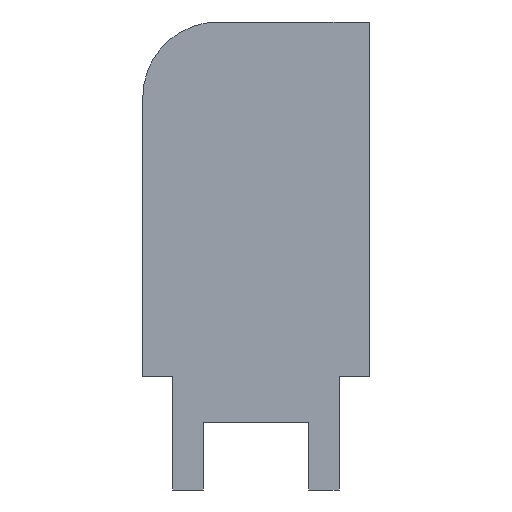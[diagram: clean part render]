
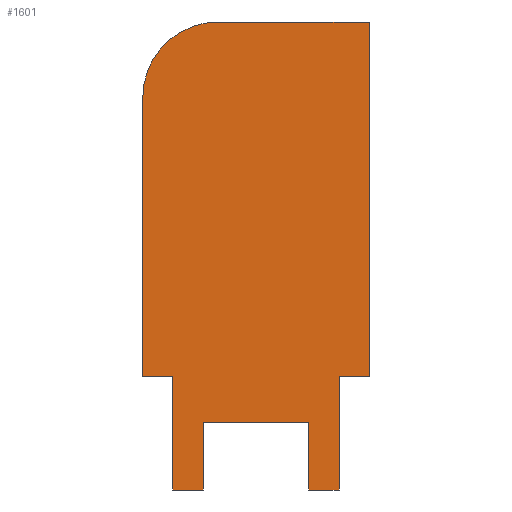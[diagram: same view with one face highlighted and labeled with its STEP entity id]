
A CAD part, left-side view. The second image highlights one B-rep face of the part: STEP entity #1601.
In plain terms, the highlighted planar face has unit normal (-1, 0, 0).
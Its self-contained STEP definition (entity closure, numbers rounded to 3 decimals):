
#51=PLANE('',#1710);
#148=FACE_OUTER_BOUND('',#239,.T.);
#239=EDGE_LOOP('',(#1445,#1446,#1447,#1448,#1449,#1450,#1451,#1452,#1453,
#1454,#1455,#1456,#1457));
#262=CIRCLE('',#1682,5.);
#416=LINE('',#6028,#526);
#419=LINE('',#6034,#529);
#422=LINE('',#6040,#532);
#425=LINE('',#6046,#535);
#428=LINE('',#6052,#538);
#431=LINE('',#6058,#541);
#434=LINE('',#6064,#544);
#437=LINE('',#6070,#547);
#440=LINE('',#6076,#550);
#449=LINE('',#6092,#559);
#482=LINE('',#6162,#592);
#483=LINE('',#6164,#593);
#526=VECTOR('',#1892,10.);
#529=VECTOR('',#1897,10.);
#532=VECTOR('',#1902,10.);
#535=VECTOR('',#1907,10.);
#538=VECTOR('',#1912,10.);
#541=VECTOR('',#1917,10.);
#544=VECTOR('',#1922,10.);
#547=VECTOR('',#1927,10.);
#550=VECTOR('',#1932,10.);
#559=VECTOR('',#1945,10.);
#592=VECTOR('',#2008,10.);
#593=VECTOR('',#2011,10.);
#706=VERTEX_POINT('',#6018);
#707=VERTEX_POINT('',#6019);
#710=VERTEX_POINT('',#6027);
#712=VERTEX_POINT('',#6033);
#714=VERTEX_POINT('',#6039);
#716=VERTEX_POINT('',#6045);
#718=VERTEX_POINT('',#6051);
#720=VERTEX_POINT('',#6057);
#722=VERTEX_POINT('',#6063);
#724=VERTEX_POINT('',#6069);
#726=VERTEX_POINT('',#6075);
#731=VERTEX_POINT('',#6090);
#753=VERTEX_POINT('',#6160);
#920=EDGE_CURVE('',#706,#707,#262,.T.);
#924=EDGE_CURVE('',#710,#706,#416,.T.);
#927=EDGE_CURVE('',#712,#710,#419,.T.);
#930=EDGE_CURVE('',#714,#712,#422,.T.);
#933=EDGE_CURVE('',#716,#714,#425,.T.);
#936=EDGE_CURVE('',#718,#716,#428,.T.);
#939=EDGE_CURVE('',#720,#718,#431,.T.);
#942=EDGE_CURVE('',#722,#720,#434,.T.);
#945=EDGE_CURVE('',#724,#722,#437,.T.);
#948=EDGE_CURVE('',#726,#724,#440,.T.);
#957=EDGE_CURVE('',#731,#726,#449,.T.);
#992=EDGE_CURVE('',#753,#707,#482,.T.);
#993=EDGE_CURVE('',#731,#753,#483,.T.);
#1445=ORIENTED_EDGE('',*,*,#993,.T.);
#1446=ORIENTED_EDGE('',*,*,#992,.T.);
#1447=ORIENTED_EDGE('',*,*,#920,.F.);
#1448=ORIENTED_EDGE('',*,*,#924,.F.);
#1449=ORIENTED_EDGE('',*,*,#927,.F.);
#1450=ORIENTED_EDGE('',*,*,#930,.F.);
#1451=ORIENTED_EDGE('',*,*,#933,.F.);
#1452=ORIENTED_EDGE('',*,*,#936,.F.);
#1453=ORIENTED_EDGE('',*,*,#939,.F.);
#1454=ORIENTED_EDGE('',*,*,#942,.F.);
#1455=ORIENTED_EDGE('',*,*,#945,.F.);
#1456=ORIENTED_EDGE('',*,*,#948,.F.);
#1457=ORIENTED_EDGE('',*,*,#957,.F.);
#1601=ADVANCED_FACE('',(#148),#51,.T.);
#1682=AXIS2_PLACEMENT_3D('',#6020,#1884,#1885);
#1710=AXIS2_PLACEMENT_3D('',#6163,#2009,#2010);
#1884=DIRECTION('center_axis',(1.,0.,0.));
#1885=DIRECTION('ref_axis',(0.,1.,0.));
#1892=DIRECTION('',(0.,0.,1.));
#1897=DIRECTION('',(0.,1.,0.));
#1902=DIRECTION('',(0.,0.,1.));
#1907=DIRECTION('',(0.,1.,0.));
#1912=DIRECTION('',(0.,0.,-1.));
#1917=DIRECTION('',(0.,1.,0.));
#1922=DIRECTION('',(0.,0.,1.));
#1927=DIRECTION('',(0.,1.,0.));
#1932=DIRECTION('',(0.,0.,-1.));
#1945=DIRECTION('',(0.,1.,0.));
#2008=DIRECTION('',(0.,1.,0.));
#2009=DIRECTION('center_axis',(-1.,0.,0.));
#2010=DIRECTION('ref_axis',(0.,0.,1.));
#2011=DIRECTION('',(0.,0.,1.));
#6018=CARTESIAN_POINT('',(-25.8,15.,18.5));
#6019=CARTESIAN_POINT('',(-25.8,10.,23.5));
#6020=CARTESIAN_POINT('Origin',(-25.8,10.,18.5));
#6027=CARTESIAN_POINT('',(-25.8,15.,0.));
#6028=CARTESIAN_POINT('',(-25.8,15.,0.));
#6033=CARTESIAN_POINT('',(-25.8,13.,0.));
#6034=CARTESIAN_POINT('',(-25.8,0.,0.));
#6039=CARTESIAN_POINT('',(-25.8,13.,-7.5));
#6040=CARTESIAN_POINT('',(-25.8,13.,-7.5));
#6045=CARTESIAN_POINT('',(-25.8,11.,-7.5));
#6046=CARTESIAN_POINT('',(-25.8,11.,-7.5));
#6051=CARTESIAN_POINT('',(-25.8,11.,-3.));
#6052=CARTESIAN_POINT('',(-25.8,11.,-3.));
#6057=CARTESIAN_POINT('',(-25.8,4.,-3.));
#6058=CARTESIAN_POINT('',(-25.8,4.,-3.));
#6063=CARTESIAN_POINT('',(-25.8,4.,-7.5));
#6064=CARTESIAN_POINT('',(-25.8,4.,-7.5));
#6069=CARTESIAN_POINT('',(-25.8,2.,-7.5));
#6070=CARTESIAN_POINT('',(-25.8,2.,-7.5));
#6075=CARTESIAN_POINT('',(-25.8,2.,0.));
#6076=CARTESIAN_POINT('',(-25.8,2.,0.));
#6090=CARTESIAN_POINT('',(-25.8,0.,0.));
#6092=CARTESIAN_POINT('',(-25.8,0.,0.));
#6160=CARTESIAN_POINT('',(-25.8,0.,23.5));
#6162=CARTESIAN_POINT('',(-25.8,0.,23.5));
#6163=CARTESIAN_POINT('Origin',(-25.8,0.,0.));
#6164=CARTESIAN_POINT('',(-25.8,0.,0.));
